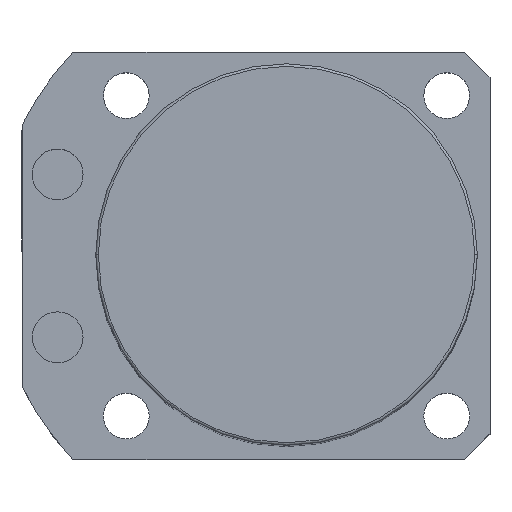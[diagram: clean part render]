
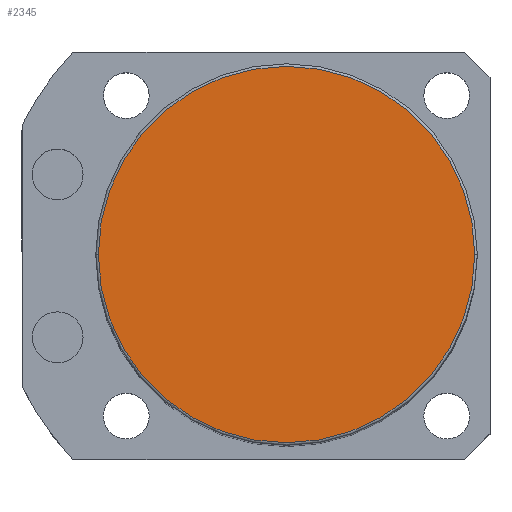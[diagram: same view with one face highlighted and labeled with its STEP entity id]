
A CAD part, top view. The second image highlights one B-rep face of the part: STEP entity #2345.
In plain terms, the highlighted planar face has unit normal (0, 0, 1).
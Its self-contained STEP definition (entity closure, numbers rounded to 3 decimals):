
#73 = DIRECTION ( 'NONE',  ( 1., 0., 0. ) ) ;
#85 = AXIS2_PLACEMENT_3D ( 'NONE', #2178, #2162, #1779 ) ;
#135 = ORIENTED_EDGE ( 'NONE', *, *, #907, .T. ) ;
#585 = PLANE ( 'NONE',  #2461 ) ;
#595 = CARTESIAN_POINT ( 'NONE',  ( -37., 0., 165.5 ) ) ;
#818 = DIRECTION ( 'NONE',  ( 1., 0., 0. ) ) ;
#855 = CARTESIAN_POINT ( 'NONE',  ( 0., 0., 165.5 ) ) ;
#902 = VERTEX_POINT ( 'NONE', #1383 ) ;
#907 = EDGE_CURVE ( 'NONE', #2327, #902, #1445, .T. ) ;
#941 = EDGE_CURVE ( 'NONE', #902, #2327, #1524, .T. ) ;
#1090 = ORIENTED_EDGE ( 'NONE', *, *, #941, .T. ) ;
#1155 = CARTESIAN_POINT ( 'NONE',  ( 0., 0., 165.5 ) ) ;
#1382 = DIRECTION ( 'NONE',  ( 0., 0., 1. ) ) ;
#1383 = CARTESIAN_POINT ( 'NONE',  ( 37., 0., 165.5 ) ) ;
#1445 = CIRCLE ( 'NONE', #85, 37. ) ;
#1524 = CIRCLE ( 'NONE', #2339, 37. ) ;
#1659 = FACE_OUTER_BOUND ( 'NONE', #2208, .T. ) ;
#1779 = DIRECTION ( 'NONE',  ( 1., 0., 0. ) ) ;
#2162 = DIRECTION ( 'NONE',  ( 0., 0., 1. ) ) ;
#2178 = CARTESIAN_POINT ( 'NONE',  ( 0., 0., 165.5 ) ) ;
#2208 = EDGE_LOOP ( 'NONE', ( #1090, #135 ) ) ;
#2327 = VERTEX_POINT ( 'NONE', #595 ) ;
#2339 = AXIS2_PLACEMENT_3D ( 'NONE', #855, #2376, #818 ) ;
#2345 = ADVANCED_FACE ( 'NONE', ( #1659 ), #585, .T. ) ;
#2376 = DIRECTION ( 'NONE',  ( 0., 0., 1. ) ) ;
#2461 = AXIS2_PLACEMENT_3D ( 'NONE', #1155, #1382, #73 ) ;
